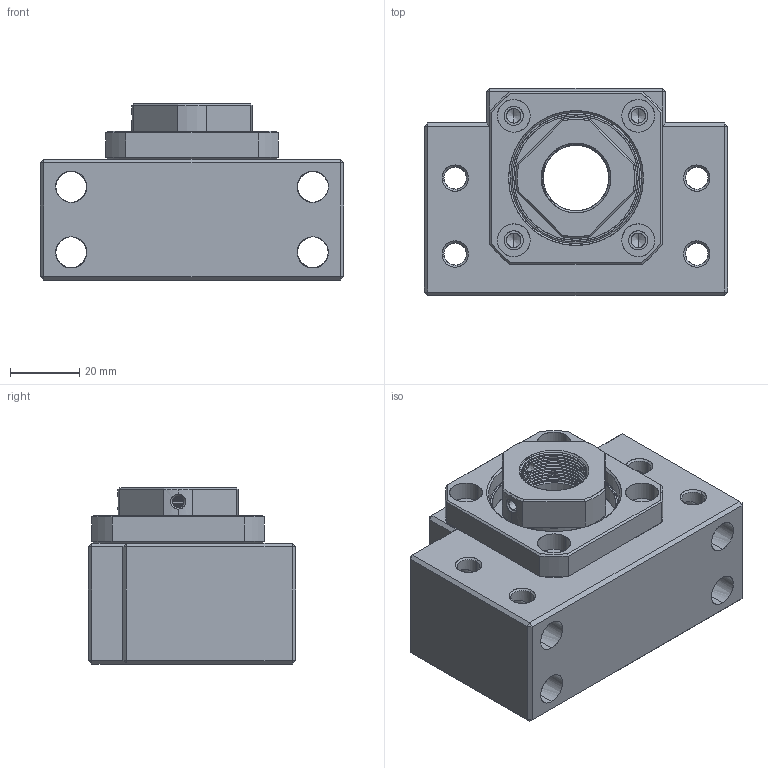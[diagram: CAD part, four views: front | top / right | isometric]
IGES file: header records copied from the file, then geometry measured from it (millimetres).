
Start section: SolidWorks IGES file using analytic representation for surfaces
Global section: file name: Z:\Accessories\_GC_!!!\SYK\Support unit\BK\BK20.IGS; native system: SolidWorks 2015; preprocessor: SolidWorks 2015; author: User; date: 170504.144935; units: millimetre
Bounding box: 88 x 60 x 51 mm (x, y, z)
Surface area: 62764.8 mm2 (no closed solid volume)
Topology: 0 solids, 0 shells, 476 faces, 8032 edges, 7914 vertices
Faces by surface type: bspline 245, revolution 231
